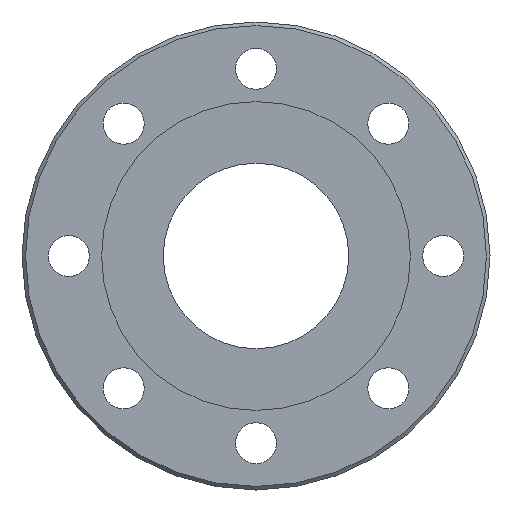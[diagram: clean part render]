
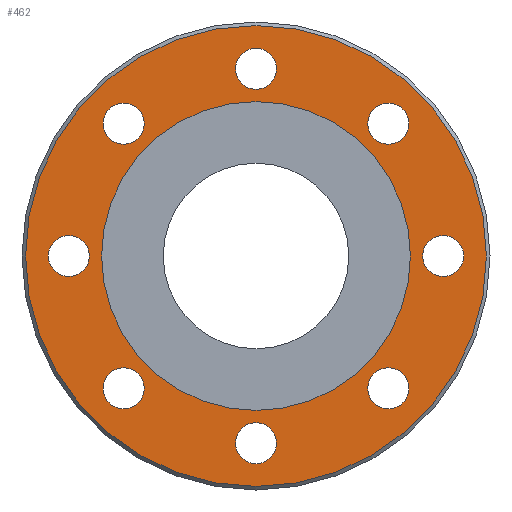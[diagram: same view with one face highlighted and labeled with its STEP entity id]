
A CAD part, left-side view. The second image highlights one B-rep face of the part: STEP entity #462.
In plain terms, the highlighted planar face has unit normal (-1, 0, 0).
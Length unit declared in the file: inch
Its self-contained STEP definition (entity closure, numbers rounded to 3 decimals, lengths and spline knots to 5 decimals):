
#15=FACE_BOUND('',#83,.T.);
#16=FACE_BOUND('',#84,.T.);
#17=FACE_BOUND('',#85,.T.);
#18=FACE_BOUND('',#86,.T.);
#19=FACE_BOUND('',#87,.T.);
#20=FACE_BOUND('',#88,.T.);
#21=FACE_BOUND('',#89,.T.);
#22=FACE_BOUND('',#90,.T.);
#23=FACE_BOUND('',#91,.T.);
#37=PLANE('',#510);
#59=FACE_OUTER_BOUND('',#82,.T.);
#82=EDGE_LOOP('',(#321));
#83=EDGE_LOOP('',(#322,#323));
#84=EDGE_LOOP('',(#324));
#85=EDGE_LOOP('',(#325));
#86=EDGE_LOOP('',(#326));
#87=EDGE_LOOP('',(#327));
#88=EDGE_LOOP('',(#328));
#89=EDGE_LOOP('',(#329));
#90=EDGE_LOOP('',(#330));
#91=EDGE_LOOP('',(#331));
#157=CIRCLE('',#504,3.877);
#162=CIRCLE('',#511,2.5985);
#163=CIRCLE('',#512,2.5985);
#164=CIRCLE('',#513,0.345);
#165=CIRCLE('',#514,0.345);
#166=CIRCLE('',#515,0.345);
#167=CIRCLE('',#516,0.345);
#168=CIRCLE('',#517,0.345);
#169=CIRCLE('',#518,0.345);
#170=CIRCLE('',#519,0.345);
#171=CIRCLE('',#520,0.345);
#203=VERTEX_POINT('',#730);
#208=VERTEX_POINT('',#744);
#209=VERTEX_POINT('',#745);
#210=VERTEX_POINT('',#748);
#211=VERTEX_POINT('',#750);
#212=VERTEX_POINT('',#752);
#213=VERTEX_POINT('',#754);
#214=VERTEX_POINT('',#756);
#215=VERTEX_POINT('',#758);
#216=VERTEX_POINT('',#760);
#217=VERTEX_POINT('',#762);
#248=EDGE_CURVE('',#203,#203,#157,.T.);
#255=EDGE_CURVE('',#208,#209,#162,.T.);
#256=EDGE_CURVE('',#209,#208,#163,.T.);
#257=EDGE_CURVE('',#210,#210,#164,.T.);
#258=EDGE_CURVE('',#211,#211,#165,.T.);
#259=EDGE_CURVE('',#212,#212,#166,.T.);
#260=EDGE_CURVE('',#213,#213,#167,.T.);
#261=EDGE_CURVE('',#214,#214,#168,.T.);
#262=EDGE_CURVE('',#215,#215,#169,.T.);
#263=EDGE_CURVE('',#216,#216,#170,.T.);
#264=EDGE_CURVE('',#217,#217,#171,.T.);
#321=ORIENTED_EDGE('',*,*,#248,.F.);
#322=ORIENTED_EDGE('',*,*,#255,.F.);
#323=ORIENTED_EDGE('',*,*,#256,.F.);
#324=ORIENTED_EDGE('',*,*,#257,.T.);
#325=ORIENTED_EDGE('',*,*,#258,.T.);
#326=ORIENTED_EDGE('',*,*,#259,.T.);
#327=ORIENTED_EDGE('',*,*,#260,.T.);
#328=ORIENTED_EDGE('',*,*,#261,.T.);
#329=ORIENTED_EDGE('',*,*,#262,.T.);
#330=ORIENTED_EDGE('',*,*,#263,.T.);
#331=ORIENTED_EDGE('',*,*,#264,.T.);
#462=ADVANCED_FACE('',(#59,#15,#16,#17,#18,#19,#20,#21,#22,#23),#37,.T.);
#504=AXIS2_PLACEMENT_3D('',#731,#576,#577);
#510=AXIS2_PLACEMENT_3D('',#743,#590,#591);
#511=AXIS2_PLACEMENT_3D('',#746,#592,#593);
#512=AXIS2_PLACEMENT_3D('',#747,#594,#595);
#513=AXIS2_PLACEMENT_3D('',#749,#596,#597);
#514=AXIS2_PLACEMENT_3D('',#751,#598,#599);
#515=AXIS2_PLACEMENT_3D('',#753,#600,#601);
#516=AXIS2_PLACEMENT_3D('',#755,#602,#603);
#517=AXIS2_PLACEMENT_3D('',#757,#604,#605);
#518=AXIS2_PLACEMENT_3D('',#759,#606,#607);
#519=AXIS2_PLACEMENT_3D('',#761,#608,#609);
#520=AXIS2_PLACEMENT_3D('',#763,#610,#611);
#576=DIRECTION('center_axis',(1.,0.,0.));
#577=DIRECTION('ref_axis',(0.,-1.,0.));
#590=DIRECTION('center_axis',(-1.,0.,0.));
#591=DIRECTION('ref_axis',(0.,0.,1.));
#592=DIRECTION('center_axis',(-1.,0.,0.));
#593=DIRECTION('ref_axis',(0.,0.,1.));
#594=DIRECTION('center_axis',(-1.,0.,0.));
#595=DIRECTION('ref_axis',(0.,0.,1.));
#596=DIRECTION('center_axis',(1.,0.,0.));
#597=DIRECTION('ref_axis',(0.,0.,-1.));
#598=DIRECTION('center_axis',(1.,0.,0.));
#599=DIRECTION('ref_axis',(0.,-0.707,-0.707));
#600=DIRECTION('center_axis',(1.,0.,0.));
#601=DIRECTION('ref_axis',(0.,-1.,0.));
#602=DIRECTION('center_axis',(1.,0.,0.));
#603=DIRECTION('ref_axis',(0.,-0.707,0.707));
#604=DIRECTION('center_axis',(1.,0.,0.));
#605=DIRECTION('ref_axis',(0.,0.,
1.));
#606=DIRECTION('center_axis',(1.,0.,0.));
#607=DIRECTION('ref_axis',(0.,0.707,0.707));
#608=DIRECTION('center_axis',(1.,0.,0.));
#609=DIRECTION('ref_axis',(0.,1.,0.));
#610=DIRECTION('center_axis',(1.,0.,0.));
#611=DIRECTION('ref_axis',(0.,0.707,-0.707));
#730=CARTESIAN_POINT('',(-2.402,3.877,0.));
#731=CARTESIAN_POINT('Origin',(-2.402,0.,0.));
#743=CARTESIAN_POINT('Origin',(-2.402,2.5985,0.));
#744=CARTESIAN_POINT('',(-2.402,2.5985,0.));
#745=CARTESIAN_POINT('',(-2.402,-2.5985,0.));
#746=CARTESIAN_POINT('Origin',(-2.402,0.,0.));
#747=CARTESIAN_POINT('Origin',(-2.402,0.,0.));
#748=CARTESIAN_POINT('',(-2.402,0.,3.495));
#749=CARTESIAN_POINT('Origin',(-2.402,0.,3.15));
#750=CARTESIAN_POINT('',(-2.402,2.47134,2.47134));
#751=CARTESIAN_POINT('Origin',(-2.402,2.22739,2.22739));
#752=CARTESIAN_POINT('',(-2.402,3.495,0.));
#753=CARTESIAN_POINT('Origin',(-2.402,3.15,0.));
#754=CARTESIAN_POINT('',(-2.402,2.47134,-2.47134));
#755=CARTESIAN_POINT('Origin',(-2.402,2.22739,-2.22739));
#756=CARTESIAN_POINT('',(-2.402,0.,-3.495));
#757=CARTESIAN_POINT('Origin',(-2.402,0.,-3.15));
#758=CARTESIAN_POINT('',(-2.402,-2.47134,-2.47134));
#759=CARTESIAN_POINT('Origin',(-2.402,-2.22739,-2.22739));
#760=CARTESIAN_POINT('',(-2.402,-3.495,0.));
#761=CARTESIAN_POINT('Origin',(-2.402,-3.15,0.));
#762=CARTESIAN_POINT('',(-2.402,-2.47134,2.47134));
#763=CARTESIAN_POINT('Origin',(-2.402,-2.22739,2.22739));
